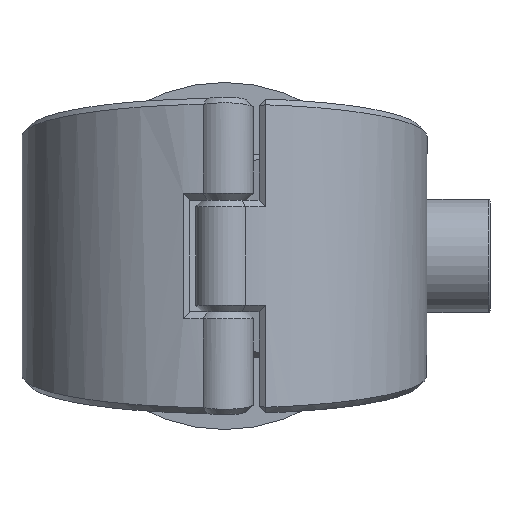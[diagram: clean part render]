
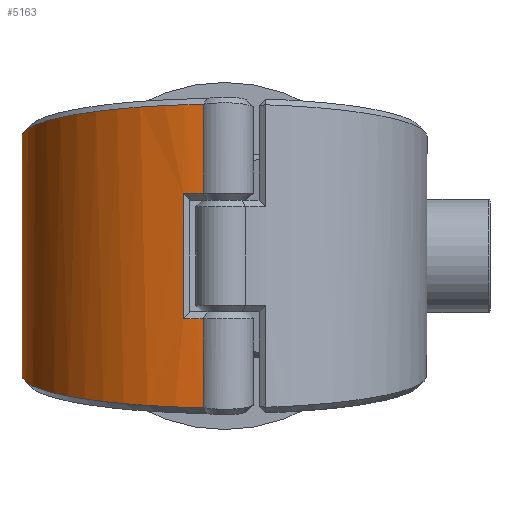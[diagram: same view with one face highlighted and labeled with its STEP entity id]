
A CAD part, front view. The second image highlights one B-rep face of the part: STEP entity #5163.
In plain terms, the highlighted cylindrical face has radius 59.5 mm (diameter 119 mm), a partial arc.
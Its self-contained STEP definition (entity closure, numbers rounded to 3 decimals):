
#171=CYLINDRICAL_SURFACE('',#5540,59.5);
#388=FACE_OUTER_BOUND('',#730,.T.);
#730=EDGE_LOOP('',(#3521,#3522,#3523,#3524,#3525,#3526,#3527,#3528,#3529,
#3530,#3531,#3532));
#1089=B_SPLINE_CURVE_WITH_KNOTS('',3,(#7728,#7729,#7730,#7731),
 .UNSPECIFIED.,.F.,.F.,(4,4),(-0.002,0.),.UNSPECIFIED.);
#1090=B_SPLINE_CURVE_WITH_KNOTS('',3,(#7733,#7734,#7735,#7736),
 .UNSPECIFIED.,.F.,.F.,(4,4),(-3.037,-3.037),
 .UNSPECIFIED.);
#1091=B_SPLINE_CURVE_WITH_KNOTS('',3,(#7738,#7739,#7740,#7741,#7742,#7743,
#7744,#7745,#7746,#7747),.UNSPECIFIED.,.F.,.F.,(4,1,1,1,1,1,1,4),(0.316,
0.596,1.005,1.415,1.824,2.233,
2.642,3.037),.UNSPECIFIED.);
#1092=B_SPLINE_CURVE_WITH_KNOTS('',3,(#7751,#7752,#7753,#7754,#7755,#7756,
#7757,#7758,#7759,#7760),.UNSPECIFIED.,.F.,.F.,(4,1,1,1,1,1,1,4),(-3.037,
-2.642,-2.233,-1.824,-1.415,
-1.005,-0.596,-0.316),.UNSPECIFIED.);
#1093=B_SPLINE_CURVE_WITH_KNOTS('',3,(#7762,#7763,#7764,#7765),
 .UNSPECIFIED.,.F.,.F.,(4,4),(3.037,3.037),
 .UNSPECIFIED.);
#1094=B_SPLINE_CURVE_WITH_KNOTS('',3,(#7767,#7768,#7769,#7770),
 .UNSPECIFIED.,.F.,.F.,(4,4),(-0.435,-0.433),
 .UNSPECIFIED.);
#1317=LINE('',#7662,#1555);
#1323=LINE('',#7726,#1561);
#1324=LINE('',#7749,#1562);
#1325=LINE('',#7771,#1563);
#1555=VECTOR('',#6155,10.);
#1561=VECTOR('',#6201,10.);
#1562=VECTOR('',#6202,10.);
#1563=VECTOR('',#6203,10.);
#1798=CIRCLE('',#5530,59.5);
#1801=CIRCLE('',#5535,59.5);
#2137=VERTEX_POINT('',#7656);
#2138=VERTEX_POINT('',#7661);
#2144=VERTEX_POINT('',#7682);
#2147=VERTEX_POINT('',#7703);
#2151=VERTEX_POINT('',#7725);
#2152=VERTEX_POINT('',#7727);
#2153=VERTEX_POINT('',#7732);
#2154=VERTEX_POINT('',#7737);
#2155=VERTEX_POINT('',#7748);
#2156=VERTEX_POINT('',#7750);
#2157=VERTEX_POINT('',#7761);
#2158=VERTEX_POINT('',#7766);
#2646=EDGE_CURVE('',#2137,#2138,#1317,.T.);
#2659=EDGE_CURVE('',#2144,#2137,#1798,.T.);
#2664=EDGE_CURVE('',#2138,#2147,#1801,.T.);
#2670=EDGE_CURVE('',#2151,#2144,#1323,.T.);
#2671=EDGE_CURVE('',#2152,#2151,#1089,.T.);
#2672=EDGE_CURVE('',#2152,#2153,#1090,.T.);
#2673=EDGE_CURVE('',#2154,#2153,#1091,.T.);
#2674=EDGE_CURVE('',#2155,#2154,#1324,.T.);
#2675=EDGE_CURVE('',#2156,#2155,#1092,.T.);
#2676=EDGE_CURVE('',#2156,#2157,#1093,.T.);
#2677=EDGE_CURVE('',#2158,#2157,#1094,.T.);
#2678=EDGE_CURVE('',#2147,#2158,#1325,.T.);
#3521=ORIENTED_EDGE('',*,*,#2664,.F.);
#3522=ORIENTED_EDGE('',*,*,#2646,.F.);
#3523=ORIENTED_EDGE('',*,*,#2659,.F.);
#3524=ORIENTED_EDGE('',*,*,#2670,.F.);
#3525=ORIENTED_EDGE('',*,*,#2671,.F.);
#3526=ORIENTED_EDGE('',*,*,#2672,.T.);
#3527=ORIENTED_EDGE('',*,*,#2673,.F.);
#3528=ORIENTED_EDGE('',*,*,#2674,.F.);
#3529=ORIENTED_EDGE('',*,*,#2675,.F.);
#3530=ORIENTED_EDGE('',*,*,#2676,.T.);
#3531=ORIENTED_EDGE('',*,*,#2677,.F.);
#3532=ORIENTED_EDGE('',*,*,#2678,.F.);
#5163=ADVANCED_FACE('',(#388),#171,.T.);
#5530=AXIS2_PLACEMENT_3D('',#7698,#6177,#6178);
#5535=AXIS2_PLACEMENT_3D('',#7712,#6187,#6188);
#5540=AXIS2_PLACEMENT_3D('',#7724,#6199,#6200);
#6155=DIRECTION('',(0.,0.,-1.));
#6177=DIRECTION('center_axis',(0.,0.,-1.));
#6178=DIRECTION('ref_axis',(0.312,-0.95,0.));
#6187=DIRECTION('center_axis',(0.,0.,1.));
#6188=DIRECTION('ref_axis',(0.312,-0.95,0.));
#6199=DIRECTION('center_axis',(0.,0.,1.));
#6200=DIRECTION('ref_axis',(-0.312,0.95,0.));
#6201=DIRECTION('',(0.,0.,-1.));
#6202=DIRECTION('',(0.,0.,1.));
#6203=DIRECTION('',(0.,0.,-1.));
#7656=CARTESIAN_POINT('',(-12.115,-58.254,18.45));
#7661=CARTESIAN_POINT('',(-12.115,-58.254,-18.45));
#7662=CARTESIAN_POINT('',(-12.115,-58.254,0.));
#7682=CARTESIAN_POINT('',(-6.19,-59.177,18.45));
#7698=CARTESIAN_POINT('Origin',(0.,0.,18.45));
#7703=CARTESIAN_POINT('',(-6.19,-59.177,-18.45));
#7712=CARTESIAN_POINT('Origin',(0.,0.,-18.45));
#7724=CARTESIAN_POINT('Origin',(0.,0.,0.));
#7725=CARTESIAN_POINT('',(-6.19,-59.177,44.557));
#7726=CARTESIAN_POINT('',(-6.19,-59.177,0.));
#7727=CARTESIAN_POINT('',(-6.17,-59.179,44.571));
#7728=CARTESIAN_POINT('Ctrl Pts',(-6.17,-59.179,44.571));
#7729=CARTESIAN_POINT('Ctrl Pts',(-6.176,-59.178,44.566));
#7730=CARTESIAN_POINT('Ctrl Pts',(-6.183,-59.177,44.562));
#7731=CARTESIAN_POINT('Ctrl Pts',(-6.19,-59.177,44.557));
#7732=CARTESIAN_POINT('',(-6.19,-59.177,44.571));
#7733=CARTESIAN_POINT('Ctrl Pts',(-6.17,-59.179,44.571));
#7734=CARTESIAN_POINT('Ctrl Pts',(-6.177,-59.178,44.571));
#7735=CARTESIAN_POINT('Ctrl Pts',(-6.183,-59.178,44.571));
#7736=CARTESIAN_POINT('Ctrl Pts',(-6.19,-59.177,44.571));
#7737=CARTESIAN_POINT('',(-18.579,56.525,26.198));
#7738=CARTESIAN_POINT('Ctrl Pts',(-18.578,56.522,26.198));
#7739=CARTESIAN_POINT('Ctrl Pts',(-23.882,54.776,26.474));
#7740=CARTESIAN_POINT('Ctrl Pts',(-36.33,48.65,27.442));
#7741=CARTESIAN_POINT('Ctrl Pts',(-51.823,32.556,29.987));
#7742=CARTESIAN_POINT('Ctrl Pts',(-60.49,9.2,33.688));
#7743=CARTESIAN_POINT('Ctrl Pts',(-59.157,-15.624,37.631));
#7744=CARTESIAN_POINT('Ctrl Pts',(-48.081,-37.819,41.164));
#7745=CARTESIAN_POINT('Ctrl Pts',(-29.378,-53.589,43.678));
#7746=CARTESIAN_POINT('Ctrl Pts',(-13.932,-58.366,44.441));
#7747=CARTESIAN_POINT('Ctrl Pts',(-6.19,-59.177,44.571));
#7748=CARTESIAN_POINT('',(-18.579,56.525,-26.198));
#7749=CARTESIAN_POINT('',(-18.579,56.525,0.));
#7750=CARTESIAN_POINT('',(-6.19,-59.177,-44.571));
#7751=CARTESIAN_POINT('Ctrl Pts',(-6.19,-59.177,-44.571));
#7752=CARTESIAN_POINT('Ctrl Pts',(-13.932,-58.366,-44.441));
#7753=CARTESIAN_POINT('Ctrl Pts',(-29.375,-53.586,-43.678));
#7754=CARTESIAN_POINT('Ctrl Pts',(-48.086,-37.823,-41.164));
#7755=CARTESIAN_POINT('Ctrl Pts',(-59.151,-15.622,-37.631));
#7756=CARTESIAN_POINT('Ctrl Pts',(-60.497,9.2,-33.688));
#7757=CARTESIAN_POINT('Ctrl Pts',(-51.819,32.555,-29.987));
#7758=CARTESIAN_POINT('Ctrl Pts',(-36.33,48.65,-27.442));
#7759=CARTESIAN_POINT('Ctrl Pts',(-23.882,54.776,-26.474));
#7760=CARTESIAN_POINT('Ctrl Pts',(-18.578,56.522,-26.198));
#7761=CARTESIAN_POINT('',(-6.17,-59.179,-44.571));
#7762=CARTESIAN_POINT('Ctrl Pts',(-6.19,-59.177,-44.571));
#7763=CARTESIAN_POINT('Ctrl Pts',(-6.183,-59.178,-44.571));
#7764=CARTESIAN_POINT('Ctrl Pts',(-6.177,-59.178,-44.571));
#7765=CARTESIAN_POINT('Ctrl Pts',(-6.17,-59.179,-44.571));
#7766=CARTESIAN_POINT('',(-6.19,-59.177,-44.557));
#7767=CARTESIAN_POINT('Ctrl Pts',(-6.19,-59.177,-44.557));
#7768=CARTESIAN_POINT('Ctrl Pts',(-6.183,-59.177,-44.562));
#7769=CARTESIAN_POINT('Ctrl Pts',(-6.177,-59.178,-44.566));
#7770=CARTESIAN_POINT('Ctrl Pts',(-6.17,-59.179,-44.571));
#7771=CARTESIAN_POINT('',(-6.19,-59.177,0.));
